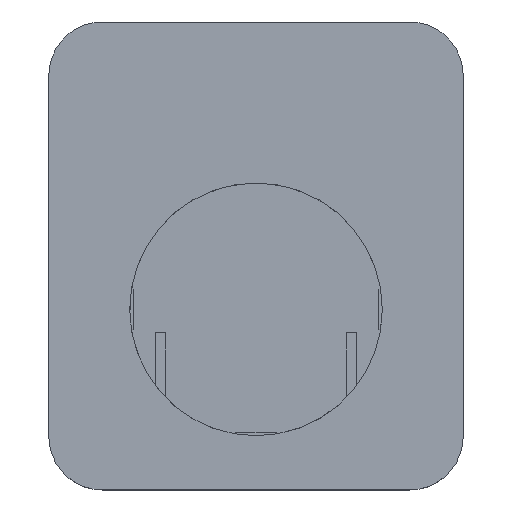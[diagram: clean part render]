
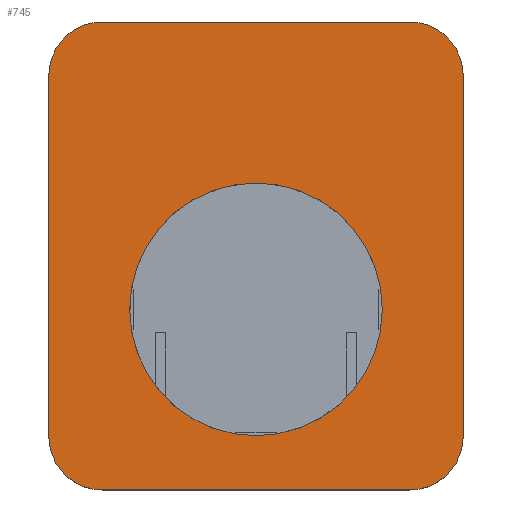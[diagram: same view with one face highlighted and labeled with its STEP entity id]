
A CAD part, top view. The second image highlights one B-rep face of the part: STEP entity #745.
In plain terms, the highlighted planar face has unit normal (0, 0, 1).
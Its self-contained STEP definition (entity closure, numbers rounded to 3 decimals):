
#46 = VERTEX_POINT('',#47);
#47 = CARTESIAN_POINT('',(-23.,-35.,14.8));
#54 = PLANE('',#55);
#55 = AXIS2_PLACEMENT_3D('',#56,#57,#58);
#56 = CARTESIAN_POINT('',(-23.,-35.,2.4));
#57 = DIRECTION('',(0.,1.,0.));
#58 = DIRECTION('',(1.,0.,0.));
#66 = CYLINDRICAL_SURFACE('',#67,8.);
#67 = AXIS2_PLACEMENT_3D('',#68,#69,#70);
#68 = CARTESIAN_POINT('',(-23.,-27.,2.4));
#69 = DIRECTION('',(-0.,-0.,-1.));
#70 = DIRECTION('',(1.,0.,0.));
#78 = EDGE_CURVE('',#46,#79,#81,.T.);
#79 = VERTEX_POINT('',#80);
#80 = CARTESIAN_POINT('',(23.,-35.,14.8));
#81 = SURFACE_CURVE('',#82,(#86,#93),.PCURVE_S1.);
#82 = LINE('',#83,#84);
#83 = CARTESIAN_POINT('',(-23.,-35.,14.8));
#84 = VECTOR('',#85,1.);
#85 = DIRECTION('',(1.,0.,0.));
#86 = PCURVE('',#54,#87);
#87 = DEFINITIONAL_REPRESENTATION('',(#88),#92);
#88 = LINE('',#89,#90);
#89 = CARTESIAN_POINT('',(0.,-12.4));
#90 = VECTOR('',#91,1.);
#91 = DIRECTION('',(1.,0.));
#92 = ( GEOMETRIC_REPRESENTATION_CONTEXT(2) 
PARAMETRIC_REPRESENTATION_CONTEXT() REPRESENTATION_CONTEXT('2D SPACE',''
  ) );
#93 = PCURVE('',#94,#99);
#94 = PLANE('',#95);
#95 = AXIS2_PLACEMENT_3D('',#96,#97,#98);
#96 = CARTESIAN_POINT('',(0.,0.,14.8));
#97 = DIRECTION('',(0.,0.,1.));
#98 = DIRECTION('',(1.,0.,-0.));
#99 = DEFINITIONAL_REPRESENTATION('',(#100),#104);
#100 = LINE('',#101,#102);
#101 = CARTESIAN_POINT('',(-23.,-35.));
#102 = VECTOR('',#103,1.);
#103 = DIRECTION('',(1.,0.));
#104 = ( GEOMETRIC_REPRESENTATION_CONTEXT(2) 
PARAMETRIC_REPRESENTATION_CONTEXT() REPRESENTATION_CONTEXT('2D SPACE',''
  ) );
#122 = CYLINDRICAL_SURFACE('',#123,8.);
#123 = AXIS2_PLACEMENT_3D('',#124,#125,#126);
#124 = CARTESIAN_POINT('',(23.,-27.,2.4));
#125 = DIRECTION('',(-0.,-0.,-1.));
#126 = DIRECTION('',(1.,0.,0.));
#294 = VERTEX_POINT('',#295);
#295 = CARTESIAN_POINT('',(-31.,-27.,14.8));
#309 = PLANE('',#310);
#310 = AXIS2_PLACEMENT_3D('',#311,#312,#313);
#311 = CARTESIAN_POINT('',(-31.,27.,2.4));
#312 = DIRECTION('',(1.,0.,-0.));
#313 = DIRECTION('',(0.,-1.,0.));
#321 = EDGE_CURVE('',#294,#46,#322,.T.);
#322 = SURFACE_CURVE('',#323,(#328,#335),.PCURVE_S1.);
#323 = CIRCLE('',#324,8.);
#324 = AXIS2_PLACEMENT_3D('',#325,#326,#327);
#325 = CARTESIAN_POINT('',(-23.,-27.,14.8));
#326 = DIRECTION('',(0.,0.,1.));
#327 = DIRECTION('',(1.,0.,0.));
#328 = PCURVE('',#66,#329);
#329 = DEFINITIONAL_REPRESENTATION('',(#330),#334);
#330 = LINE('',#331,#332);
#331 = CARTESIAN_POINT('',(-0.,-12.4));
#332 = VECTOR('',#333,1.);
#333 = DIRECTION('',(-1.,0.));
#334 = ( GEOMETRIC_REPRESENTATION_CONTEXT(2) 
PARAMETRIC_REPRESENTATION_CONTEXT() REPRESENTATION_CONTEXT('2D SPACE',''
  ) );
#335 = PCURVE('',#94,#336);
#336 = DEFINITIONAL_REPRESENTATION('',(#337),#341);
#337 = CIRCLE('',#338,8.);
#338 = AXIS2_PLACEMENT_2D('',#339,#340);
#339 = CARTESIAN_POINT('',(-23.,-27.));
#340 = DIRECTION('',(1.,0.));
#341 = ( GEOMETRIC_REPRESENTATION_CONTEXT(2) 
PARAMETRIC_REPRESENTATION_CONTEXT() REPRESENTATION_CONTEXT('2D SPACE',''
  ) );
#412 = PLANE('',#413);
#413 = AXIS2_PLACEMENT_3D('',#414,#415,#416);
#414 = CARTESIAN_POINT('',(31.,-27.,2.4));
#415 = DIRECTION('',(-1.,0.,0.));
#416 = DIRECTION('',(0.,1.,0.));
#441 = CYLINDRICAL_SURFACE('',#442,8.);
#442 = AXIS2_PLACEMENT_3D('',#443,#444,#445);
#443 = CARTESIAN_POINT('',(23.,27.,2.4));
#444 = DIRECTION('',(-0.,-0.,-1.));
#445 = DIRECTION('',(1.,0.,0.));
#469 = PLANE('',#470);
#470 = AXIS2_PLACEMENT_3D('',#471,#472,#473);
#471 = CARTESIAN_POINT('',(23.,35.,2.4));
#472 = DIRECTION('',(0.,-1.,0.));
#473 = DIRECTION('',(-1.,0.,0.));
#496 = CYLINDRICAL_SURFACE('',#497,8.);
#497 = AXIS2_PLACEMENT_3D('',#498,#499,#500);
#498 = CARTESIAN_POINT('',(-23.,27.,2.4));
#499 = DIRECTION('',(-0.,-0.,-1.));
#500 = DIRECTION('',(1.,0.,0.));
#745 = ADVANCED_FACE('',(#746,#889),#94,.T.);
#746 = FACE_BOUND('',#747,.T.);
#747 = EDGE_LOOP('',(#748,#771,#772,#773,#797,#820,#844,#867));
#748 = ORIENTED_EDGE('',*,*,#749,.T.);
#749 = EDGE_CURVE('',#750,#294,#752,.T.);
#750 = VERTEX_POINT('',#751);
#751 = CARTESIAN_POINT('',(-31.,27.,14.8));
#752 = SURFACE_CURVE('',#753,(#757,#764),.PCURVE_S1.);
#753 = LINE('',#754,#755);
#754 = CARTESIAN_POINT('',(-31.,27.,14.8));
#755 = VECTOR('',#756,1.);
#756 = DIRECTION('',(0.,-1.,0.));
#757 = PCURVE('',#94,#758);
#758 = DEFINITIONAL_REPRESENTATION('',(#759),#763);
#759 = LINE('',#760,#761);
#760 = CARTESIAN_POINT('',(-31.,27.));
#761 = VECTOR('',#762,1.);
#762 = DIRECTION('',(0.,-1.));
#763 = ( GEOMETRIC_REPRESENTATION_CONTEXT(2) 
PARAMETRIC_REPRESENTATION_CONTEXT() REPRESENTATION_CONTEXT('2D SPACE',''
  ) );
#764 = PCURVE('',#309,#765);
#765 = DEFINITIONAL_REPRESENTATION('',(#766),#770);
#766 = LINE('',#767,#768);
#767 = CARTESIAN_POINT('',(0.,-12.4));
#768 = VECTOR('',#769,1.);
#769 = DIRECTION('',(1.,0.));
#770 = ( GEOMETRIC_REPRESENTATION_CONTEXT(2) 
PARAMETRIC_REPRESENTATION_CONTEXT() REPRESENTATION_CONTEXT('2D SPACE',''
  ) );
#771 = ORIENTED_EDGE('',*,*,#321,.T.);
#772 = ORIENTED_EDGE('',*,*,#78,.T.);
#773 = ORIENTED_EDGE('',*,*,#774,.T.);
#774 = EDGE_CURVE('',#79,#775,#777,.T.);
#775 = VERTEX_POINT('',#776);
#776 = CARTESIAN_POINT('',(31.,-27.,14.8));
#777 = SURFACE_CURVE('',#778,(#783,#790),.PCURVE_S1.);
#778 = CIRCLE('',#779,8.);
#779 = AXIS2_PLACEMENT_3D('',#780,#781,#782);
#780 = CARTESIAN_POINT('',(23.,-27.,14.8));
#781 = DIRECTION('',(0.,0.,1.));
#782 = DIRECTION('',(1.,0.,0.));
#783 = PCURVE('',#94,#784);
#784 = DEFINITIONAL_REPRESENTATION('',(#785),#789);
#785 = CIRCLE('',#786,8.);
#786 = AXIS2_PLACEMENT_2D('',#787,#788);
#787 = CARTESIAN_POINT('',(23.,-27.));
#788 = DIRECTION('',(1.,0.));
#789 = ( GEOMETRIC_REPRESENTATION_CONTEXT(2) 
PARAMETRIC_REPRESENTATION_CONTEXT() REPRESENTATION_CONTEXT('2D SPACE',''
  ) );
#790 = PCURVE('',#122,#791);
#791 = DEFINITIONAL_REPRESENTATION('',(#792),#796);
#792 = LINE('',#793,#794);
#793 = CARTESIAN_POINT('',(-0.,-12.4));
#794 = VECTOR('',#795,1.);
#795 = DIRECTION('',(-1.,0.));
#796 = ( GEOMETRIC_REPRESENTATION_CONTEXT(2) 
PARAMETRIC_REPRESENTATION_CONTEXT() REPRESENTATION_CONTEXT('2D SPACE',''
  ) );
#797 = ORIENTED_EDGE('',*,*,#798,.T.);
#798 = EDGE_CURVE('',#775,#799,#801,.T.);
#799 = VERTEX_POINT('',#800);
#800 = CARTESIAN_POINT('',(31.,27.,14.8));
#801 = SURFACE_CURVE('',#802,(#806,#813),.PCURVE_S1.);
#802 = LINE('',#803,#804);
#803 = CARTESIAN_POINT('',(31.,-27.,14.8));
#804 = VECTOR('',#805,1.);
#805 = DIRECTION('',(0.,1.,0.));
#806 = PCURVE('',#94,#807);
#807 = DEFINITIONAL_REPRESENTATION('',(#808),#812);
#808 = LINE('',#809,#810);
#809 = CARTESIAN_POINT('',(31.,-27.));
#810 = VECTOR('',#811,1.);
#811 = DIRECTION('',(0.,1.));
#812 = ( GEOMETRIC_REPRESENTATION_CONTEXT(2) 
PARAMETRIC_REPRESENTATION_CONTEXT() REPRESENTATION_CONTEXT('2D SPACE',''
  ) );
#813 = PCURVE('',#412,#814);
#814 = DEFINITIONAL_REPRESENTATION('',(#815),#819);
#815 = LINE('',#816,#817);
#816 = CARTESIAN_POINT('',(0.,-12.4));
#817 = VECTOR('',#818,1.);
#818 = DIRECTION('',(1.,0.));
#819 = ( GEOMETRIC_REPRESENTATION_CONTEXT(2) 
PARAMETRIC_REPRESENTATION_CONTEXT() REPRESENTATION_CONTEXT('2D SPACE',''
  ) );
#820 = ORIENTED_EDGE('',*,*,#821,.T.);
#821 = EDGE_CURVE('',#799,#822,#824,.T.);
#822 = VERTEX_POINT('',#823);
#823 = CARTESIAN_POINT('',(23.,35.,14.8));
#824 = SURFACE_CURVE('',#825,(#830,#837),.PCURVE_S1.);
#825 = CIRCLE('',#826,8.);
#826 = AXIS2_PLACEMENT_3D('',#827,#828,#829);
#827 = CARTESIAN_POINT('',(23.,27.,14.8));
#828 = DIRECTION('',(0.,0.,1.));
#829 = DIRECTION('',(1.,0.,0.));
#830 = PCURVE('',#94,#831);
#831 = DEFINITIONAL_REPRESENTATION('',(#832),#836);
#832 = CIRCLE('',#833,8.);
#833 = AXIS2_PLACEMENT_2D('',#834,#835);
#834 = CARTESIAN_POINT('',(23.,27.));
#835 = DIRECTION('',(1.,0.));
#836 = ( GEOMETRIC_REPRESENTATION_CONTEXT(2) 
PARAMETRIC_REPRESENTATION_CONTEXT() REPRESENTATION_CONTEXT('2D SPACE',''
  ) );
#837 = PCURVE('',#441,#838);
#838 = DEFINITIONAL_REPRESENTATION('',(#839),#843);
#839 = LINE('',#840,#841);
#840 = CARTESIAN_POINT('',(-0.,-12.4));
#841 = VECTOR('',#842,1.);
#842 = DIRECTION('',(-1.,0.));
#843 = ( GEOMETRIC_REPRESENTATION_CONTEXT(2) 
PARAMETRIC_REPRESENTATION_CONTEXT() REPRESENTATION_CONTEXT('2D SPACE',''
  ) );
#844 = ORIENTED_EDGE('',*,*,#845,.T.);
#845 = EDGE_CURVE('',#822,#846,#848,.T.);
#846 = VERTEX_POINT('',#847);
#847 = CARTESIAN_POINT('',(-23.,35.,14.8));
#848 = SURFACE_CURVE('',#849,(#853,#860),.PCURVE_S1.);
#849 = LINE('',#850,#851);
#850 = CARTESIAN_POINT('',(23.,35.,14.8));
#851 = VECTOR('',#852,1.);
#852 = DIRECTION('',(-1.,0.,0.));
#853 = PCURVE('',#94,#854);
#854 = DEFINITIONAL_REPRESENTATION('',(#855),#859);
#855 = LINE('',#856,#857);
#856 = CARTESIAN_POINT('',(23.,35.));
#857 = VECTOR('',#858,1.);
#858 = DIRECTION('',(-1.,0.));
#859 = ( GEOMETRIC_REPRESENTATION_CONTEXT(2) 
PARAMETRIC_REPRESENTATION_CONTEXT() REPRESENTATION_CONTEXT('2D SPACE',''
  ) );
#860 = PCURVE('',#469,#861);
#861 = DEFINITIONAL_REPRESENTATION('',(#862),#866);
#862 = LINE('',#863,#864);
#863 = CARTESIAN_POINT('',(0.,-12.4));
#864 = VECTOR('',#865,1.);
#865 = DIRECTION('',(1.,0.));
#866 = ( GEOMETRIC_REPRESENTATION_CONTEXT(2) 
PARAMETRIC_REPRESENTATION_CONTEXT() REPRESENTATION_CONTEXT('2D SPACE',''
  ) );
#867 = ORIENTED_EDGE('',*,*,#868,.T.);
#868 = EDGE_CURVE('',#846,#750,#869,.T.);
#869 = SURFACE_CURVE('',#870,(#875,#882),.PCURVE_S1.);
#870 = CIRCLE('',#871,8.);
#871 = AXIS2_PLACEMENT_3D('',#872,#873,#874);
#872 = CARTESIAN_POINT('',(-23.,27.,14.8));
#873 = DIRECTION('',(0.,0.,1.));
#874 = DIRECTION('',(1.,0.,0.));
#875 = PCURVE('',#94,#876);
#876 = DEFINITIONAL_REPRESENTATION('',(#877),#881);
#877 = CIRCLE('',#878,8.);
#878 = AXIS2_PLACEMENT_2D('',#879,#880);
#879 = CARTESIAN_POINT('',(-23.,27.));
#880 = DIRECTION('',(1.,0.));
#881 = ( GEOMETRIC_REPRESENTATION_CONTEXT(2) 
PARAMETRIC_REPRESENTATION_CONTEXT() REPRESENTATION_CONTEXT('2D SPACE',''
  ) );
#882 = PCURVE('',#496,#883);
#883 = DEFINITIONAL_REPRESENTATION('',(#884),#888);
#884 = LINE('',#885,#886);
#885 = CARTESIAN_POINT('',(-0.,-12.4));
#886 = VECTOR('',#887,1.);
#887 = DIRECTION('',(-1.,0.));
#888 = ( GEOMETRIC_REPRESENTATION_CONTEXT(2) 
PARAMETRIC_REPRESENTATION_CONTEXT() REPRESENTATION_CONTEXT('2D SPACE',''
  ) );
#889 = FACE_BOUND('',#890,.T.);
#890 = EDGE_LOOP('',(#891));
#891 = ORIENTED_EDGE('',*,*,#892,.T.);
#892 = EDGE_CURVE('',#893,#893,#895,.T.);
#893 = VERTEX_POINT('',#894);
#894 = CARTESIAN_POINT('',(18.9,-8.,14.8));
#895 = SURFACE_CURVE('',#896,(#901,#912),.PCURVE_S1.);
#896 = CIRCLE('',#897,18.9);
#897 = AXIS2_PLACEMENT_3D('',#898,#899,#900);
#898 = CARTESIAN_POINT('',(0.,-8.,14.8));
#899 = DIRECTION('',(0.,0.,-1.));
#900 = DIRECTION('',(1.,0.,0.));
#901 = PCURVE('',#94,#902);
#902 = DEFINITIONAL_REPRESENTATION('',(#903),#911);
#903 = ( BOUNDED_CURVE() B_SPLINE_CURVE(2,(#904,#905,#906,#907,#908,#909
,#910),.UNSPECIFIED.,.T.,.F.) B_SPLINE_CURVE_WITH_KNOTS((1,2,2,2,2,1),(
    -2.094,0.,2.094,4.189,6.283,
8.378),.UNSPECIFIED.) CURVE() GEOMETRIC_REPRESENTATION_ITEM() 
RATIONAL_B_SPLINE_CURVE((1.,0.5,1.,0.5,1.,0.5,1.)) REPRESENTATION_ITEM(
  '') );
#904 = CARTESIAN_POINT('',(18.9,-8.));
#905 = CARTESIAN_POINT('',(18.9,-40.736));
#906 = CARTESIAN_POINT('',(-9.45,-24.368));
#907 = CARTESIAN_POINT('',(-37.8,-8.));
#908 = CARTESIAN_POINT('',(-9.45,8.368));
#909 = CARTESIAN_POINT('',(18.9,24.736));
#910 = CARTESIAN_POINT('',(18.9,-8.));
#911 = ( GEOMETRIC_REPRESENTATION_CONTEXT(2) 
PARAMETRIC_REPRESENTATION_CONTEXT() REPRESENTATION_CONTEXT('2D SPACE',''
  ) );
#912 = PCURVE('',#913,#918);
#913 = CYLINDRICAL_SURFACE('',#914,18.9);
#914 = AXIS2_PLACEMENT_3D('',#915,#916,#917);
#915 = CARTESIAN_POINT('',(0.,-8.,12.5));
#916 = DIRECTION('',(-0.,-0.,-1.));
#917 = DIRECTION('',(1.,0.,0.));
#918 = DEFINITIONAL_REPRESENTATION('',(#919),#923);
#919 = LINE('',#920,#921);
#920 = CARTESIAN_POINT('',(-6.283,-2.3));
#921 = VECTOR('',#922,1.);
#922 = DIRECTION('',(1.,-0.));
#923 = ( GEOMETRIC_REPRESENTATION_CONTEXT(2) 
PARAMETRIC_REPRESENTATION_CONTEXT() REPRESENTATION_CONTEXT('2D SPACE',''
  ) );
